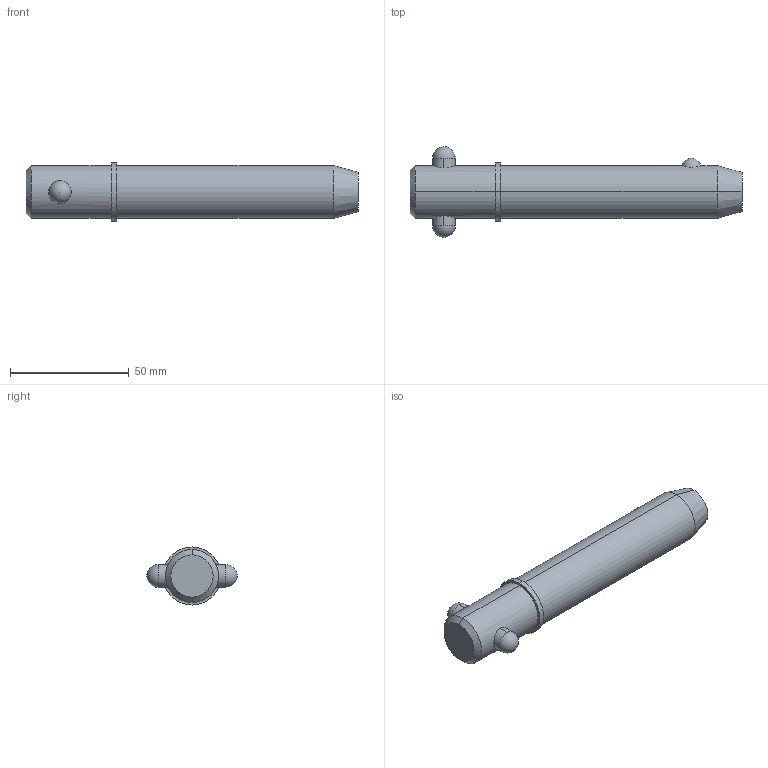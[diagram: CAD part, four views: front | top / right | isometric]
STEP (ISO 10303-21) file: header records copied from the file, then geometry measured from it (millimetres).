
FILE_DESCRIPTION (( 'STEP AP203' ), '1' );
FILE_NAME ('33018.W8830.step', '2024-11-19T17:22:18', ( '' ), ( '' ), 'SwSTEP 2.0', 'SolidWorks 2019', '' );
FILE_SCHEMA (( 'CONFIG_CONTROL_DESIGN' ));
Length unit declared in the file: millimetre
Products named in the file (3): Part2_33018.W8830; Part1_33018.W8830; 33018.W8830
Assembly tree (2 placements, depth 2):
  33018.W8830
    Part1_33018.W8830
    Part2_33018.W8830
Bounding box: 139.7 x 38.1 x 24.45 mm (x, y, z)
Volume: 54363.1 mm3; surface area: 12039.6 mm2
Topology: 2 solids, 2 shells, 22 faces, 47 edges, 30 vertices
Faces by surface type: cylinder 10, sphere 4, cone 4, plane 4
Entity records: 1057 total; most frequent: CARTESIAN_POINT 300, DIRECTION 110, ORIENTED_EDGE 82, AXIS2_PLACEMENT_3D 48, EDGE_CURVE 41, EDGE_LOOP 27, VERTEX_POINT 26, PERSON_AND_ORGANIZATION 26
